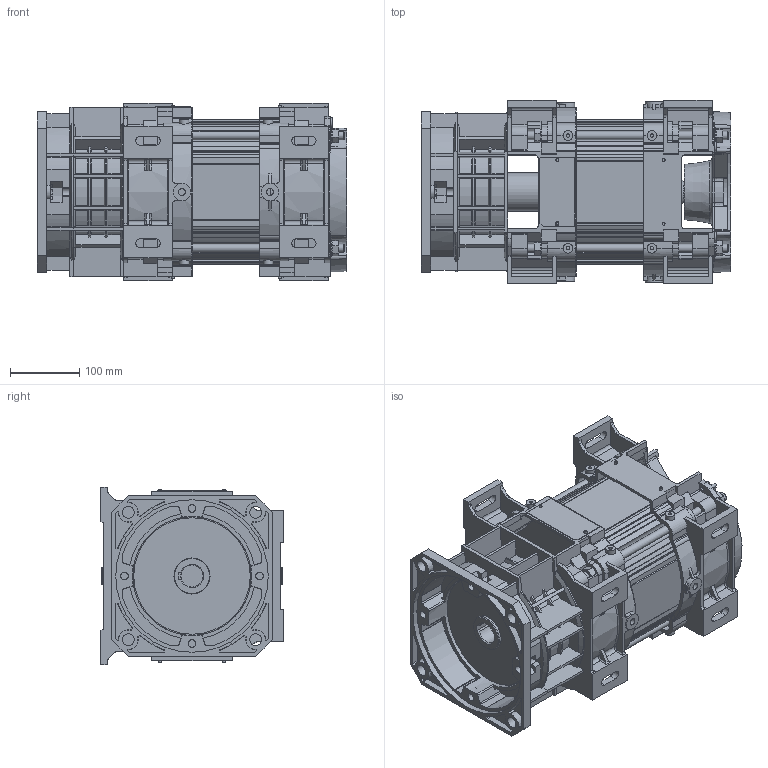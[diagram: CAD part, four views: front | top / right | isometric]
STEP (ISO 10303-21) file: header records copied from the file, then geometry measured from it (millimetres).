
FILE_DESCRIPTION(/* description */ ('Motore Tipo S76 Fl.220 F32-H140 SI Volano D168 NO Piedi'),/* implementation_level */ '2;1');
FILE_NAME(/* name */ 'Y:\ServerTecnico\Mockup Motori x Sito Elmo\Mockup Tipo V76 Size 2 FL220 F32-H140 SI Volano D168.stp',/* time_stamp */ '2016-11-04T14:55:37+01:00',/* author */ ('aparmini'),/* organization */ (''),/* preprocessor_version */ 'ST-DEVELOPER v16.5',/* originating_system */ 'Autodesk Inventor 2017',/* authorisation */ '');
FILE_SCHEMA (('AUTOMOTIVE_DESIGN { 1 0 10303 214 3 1 1 }'));
Products named in the file (11): Mockup Tipo V76 Size 2 FL220 F32-H140 SI Volano D168; Mockup Statore Size 2 - F32-H140 SI Volano D168; TGS10; CA2FD220N; CsperimParma Nuovo CRUC  14-02-05; Ca sperimSenza Volano Nuovo; CAV2 DISTANZIALE; Mockup CP2X062N; DIN 125-2 - B 13; UNI 5588 - M12; TI12ML290
Assembly tree (23 placements, depth 3):
  Mockup Tipo V76 Size 2 FL220 F32-H140 SI Volano D168
    Mockup Statore Size 2 - F32-H140 SI Volano D168
    TGS10
    CA2FD220N
      CsperimParma Nuovo CRUC  14-02-05
      Ca sperimSenza Volano Nuovo
      CAV2 DISTANZIALE
    Mockup CP2X062N
    UNI 5588 - M12  x8
    DIN 125-2 - B 13  x4
    TI12ML290  x4
Bounding box: 447 x 264 x 256 mm (x, y, z)
Volume: 9730161.5 mm3; surface area: 1438035.8 mm2
Topology: 25 solids, 25 shells, 2445 faces, 6791 edges, 4403 vertices
Faces by surface type: plane 1027, cylinder 781, cone 439, torus 102, bspline 80, sphere 16
Full cylindrical faces by diameter (mm): 4 x8, 5 x10, 8 x2, 10 x4, 10.106 x8, 11 x4, 12 x4, 13 x8, 14 x10, 17 x4, 24 x4, 25 x5, 30 x1, 32 x1, 52 x2, 55 x1, 62 x3, 65 x1, 67.5 x1, 168 x1, 220 x1
Entity records: 76333 total; most frequent: CARTESIAN_POINT 17268, DIRECTION 12518, ORIENTED_EDGE 12514, EDGE_CURVE 6257, AXIS2_PLACEMENT_3D 4646, VERTEX_POINT 4137, LINE 3226, VECTOR 3226
